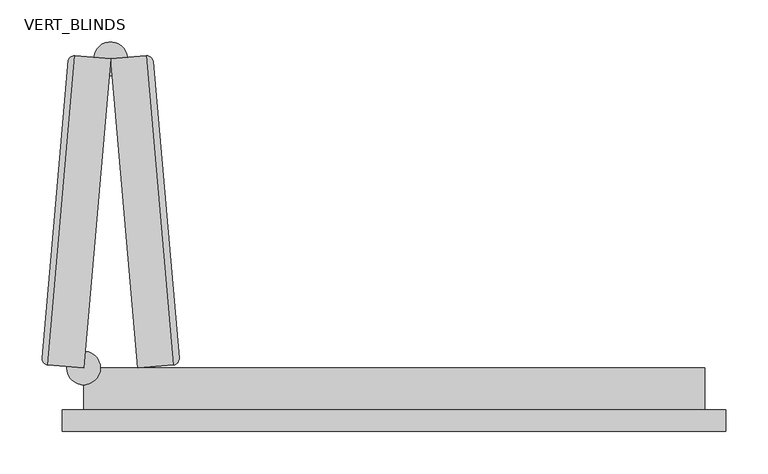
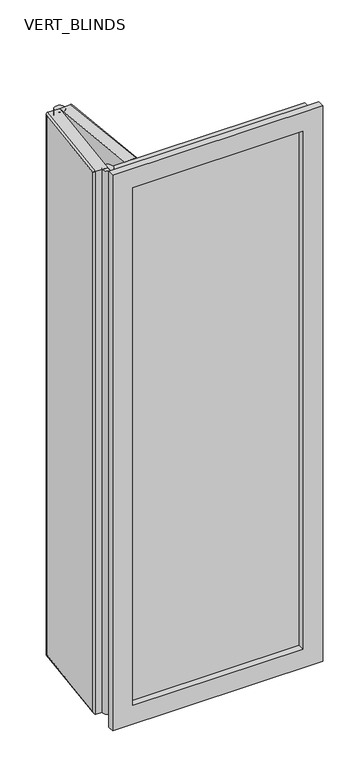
"""IFC4 building model written with IfcOpenShell, lengths in millimetres: plate geometry, CURTAIN PANEL VODA STYLE BIFOLDING : VERT_BLINDS."""

from ifc_helpers import new_model, si_unit, point, frame, frame_2d, origin, place, context, project, spatial, polyline, circle_curve, ellipse_curve, trimmed, segment, composite_curve, outline, extrude, faceted_brep, source, transform, mapped, element, save
from ifc_brep_helpers import plane_surface, cylinder_surface, advanced_brep


def vert_blinds_d016024f(model_context):
    return source(origin(), model_context, "Body", "SolidModel", [
        advanced_brep(
        [(-368.5861554, 50.0, 2175.0), (-336.4617552, 417.1835738, 2175.0), (-378.8000299, 420.8876928, 2175.0), (-410.92443, 53.7041191, 2175.0), (-336.4617552, 417.1835738, 25.0), (-368.5861554, 50.0, 25.0), (-410.92443, 53.7041191, 25.0), (-378.8000299, 420.8876928, 25.0), (-417.7422222, 61.8292474, 32.5), (-417.7422222, 61.8292474, 2167.5), (-386.9251582, 414.0699007, 2167.5), (-386.9251582, 414.0699007, 32.5)],
        [
            (0, 1),
            (1, 2),
            (2, 3),
            (3, 0),
            (4, 5),
            (5, 6),
            (6, 7),
            (7, 4),
            (1, 4),
            (7, 2),
            (8, 9),
            (9, 10),
            (10, 11),
            (11, 8),
            (5, 0),
            (3, 6),
            (8, 6, ellipse_curve(frame((-410.270762, 61.1755793, 32.5), z_axis=(-0.06162841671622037, -0.7044160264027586, 0.7071067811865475), x_axis=(-0.061628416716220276, -0.7044160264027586, -0.7071067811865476)), 10.6066017, 7.5)),
            (3, 9, ellipse_curve(frame((-410.270762, 61.1755793, 2167.5), z_axis=(-0.0616284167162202, -0.7044160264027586, -0.7071067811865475), x_axis=(0.061628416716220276, 0.7044160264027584, -0.7071067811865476)), 10.6066017, 7.5)),
            (11, 7, ellipse_curve(frame((-379.453698, 413.4162326, 32.5), z_axis=(-0.06162841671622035, -0.7044160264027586, -0.7071067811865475), x_axis=(0.0616284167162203, 0.7044160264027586, -0.7071067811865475)), 10.6066017, 7.5)),
            (10, 2, ellipse_curve(frame((-379.453698, 413.4162326, 2167.5), z_axis=(0.06162841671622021, 0.7044160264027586, -0.7071067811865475), x_axis=(0.06162841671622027, 0.7044160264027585, 0.7071067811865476)), 10.6066017, 7.5)),
        ],
        [
            plane_surface(frame((-386.2714901, 421.5413609, 2175.0), z_axis=(0.0, 0.0, 1.0), x_axis=(-0.9961946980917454, 0.0871557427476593, 0.0))),
            plane_surface(frame((-386.2714901, 421.5413609, 25.0), z_axis=(0.0, 0.0, -1.0), x_axis=(0.9961946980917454, -0.0871557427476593, 0.0))),
            plane_surface(frame((-336.4617552, 417.1835738, 2175.0), z_axis=(0.0871557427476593, 0.9961946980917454, 0.0), x_axis=(0.0, 0.0, -1.0))),
            plane_surface(frame((-386.2714901, 421.5413609, 2175.0), z_axis=(-0.9961946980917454, 0.0871557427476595, 0.0), x_axis=(0.0, 0.0, -1.0))),
            plane_surface(frame((-418.3958903, 54.3577871, 2175.0), z_axis=(-0.08715574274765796, -0.9961946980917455, 0.0), x_axis=(0.0, 0.0, -1.0))),
            plane_surface(frame((-368.5861554, 50.0, 2175.0), z_axis=(0.9961946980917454, -0.08715574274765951, 0.0), x_axis=(0.0, 0.0, -1.0))),
            cylinder_surface(frame((-410.270762, 61.1755793, 2175.0), z_axis=(0.0, 0.0, -1.0), x_axis=(0.9961946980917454, -0.08715574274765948, 0.0)), 7.5),
            cylinder_surface(frame((-410.92443, 53.7041191, 32.5), z_axis=(0.08715574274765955, 0.9961946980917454, 0.0), x_axis=(0.9961946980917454, -0.08715574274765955, 0.0)), 7.5),
            cylinder_surface(frame((-379.453698, 413.4162326, 25.0), z_axis=(0.0, 0.0, 1.0), x_axis=(0.9961946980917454, -0.0871557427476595, 0.0)), 7.5),
            cylinder_surface(frame((-378.8000299, 420.8876928, 2167.5), z_axis=(-0.08715574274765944, -0.9961946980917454, 0.0), x_axis=(0.9961946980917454, -0.08715574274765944, 0.0)), 7.5),
        ],
        [
            (0, [[1, 2, 3, 4]]),
            (1, [[5, 6, 7, 8]]),
            (2, [[9, -8, 10, -2]]),
            (3, [[11, 12, 13, 14]]),
            (4, [[15, -4, 16, -6]]),
            (5, [[-1, -15, -5, -9]]),
            (6, [[17, -16, 18, -11]]),
            (7, [[-17, -14, 19, -7]]),
            (8, [[-19, -13, 20, -10]]),
            (9, [[-18, -3, -20, -12]]),
        ],
    ),
        advanced_brep(
        [(-336.4617552, 417.1835738, 2175.0), (-304.3373551, 50.0, 2175.0), (-261.9990804, 53.7041191, 2175.0), (-294.1234806, 420.8876928, 2175.0), (-304.3373551, 50.0, 25.0), (-336.4617552, 417.1835738, 25.0), (-294.1234806, 420.8876928, 25.0), (-261.9990804, 53.7041191, 25.0), (-285.9983523, 414.0699007, 32.5), (-285.9983523, 414.0699007, 2167.5), (-255.1812883, 61.8292474, 2167.5), (-255.1812883, 61.8292474, 32.5)],
        [
            (0, 1),
            (1, 2),
            (2, 3),
            (3, 0),
            (4, 5),
            (5, 6),
            (6, 7),
            (7, 4),
            (1, 4),
            (7, 2),
            (8, 9),
            (9, 10),
            (10, 11),
            (11, 8),
            (5, 0),
            (3, 6),
            (8, 6, ellipse_curve(frame((-293.4698125, 413.4162326, 32.5), z_axis=(-0.0616284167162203, 0.7044160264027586, 0.7071067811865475), x_axis=(-0.061628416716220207, 0.7044160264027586, -0.7071067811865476)), 10.6066017, 7.5)),
            (3, 9, ellipse_curve(frame((-293.4698125, 413.4162326, 2167.5), z_axis=(-0.06162841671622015, 0.7044160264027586, -0.7071067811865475), x_axis=(0.06162841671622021, -0.7044160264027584, -0.7071067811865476)), 10.6066017, 7.5)),
            (11, 7, ellipse_curve(frame((-262.6527485, 61.1755793, 32.5), z_axis=(-0.06162841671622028, 0.7044160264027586, -0.7071067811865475), x_axis=(0.06162841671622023, -0.7044160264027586, -0.7071067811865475)), 10.6066017, 7.5)),
            (10, 2, ellipse_curve(frame((-262.6527485, 61.1755793, 2167.5), z_axis=(0.06162841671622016, -0.7044160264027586, -0.7071067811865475), x_axis=(0.061628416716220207, -0.7044160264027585, 0.7071067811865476)), 10.6066017, 7.5)),
        ],
        [
            plane_surface(frame((-254.5276202, 54.3577871, 2175.0), z_axis=(0.0, 0.0, 1.0), x_axis=(0.9961946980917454, 0.08715574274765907, 0.0))),
            plane_surface(frame((-254.5276202, 54.3577871, 25.0), z_axis=(0.0, 0.0, -1.0), x_axis=(-0.9961946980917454, -0.08715574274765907, 0.0))),
            plane_surface(frame((-304.3373551, 50.0, 2175.0), z_axis=(0.08715574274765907, -0.9961946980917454, 0.0), x_axis=(0.0, 0.0, -1.0))),
            plane_surface(frame((-254.5276202, 54.3577871, 2175.0), z_axis=(0.9961946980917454, 0.08715574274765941, 0.0), x_axis=(0.0, 0.0, -1.0))),
            plane_surface(frame((-286.6520203, 421.5413609, 2175.0), z_axis=(-0.08715574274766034, 0.9961946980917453, 0.0), x_axis=(0.0, 0.0, -1.0))),
            plane_surface(frame((-336.4617552, 417.1835738, 2175.0), z_axis=(-0.9961946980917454, -0.08715574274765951, 0.0), x_axis=(0.0, 0.0, -1.0))),
            cylinder_surface(frame((-293.4698125, 413.4162326, 2175.0), z_axis=(0.0, 0.0, -1.0), x_axis=(-0.9961946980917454, -0.08715574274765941, 0.0)), 7.5),
            cylinder_surface(frame((-294.1234806, 420.8876928, 32.5), z_axis=(0.08715574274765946, -0.9961946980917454, 0.0), x_axis=(-0.9961946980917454, -0.08715574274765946, 0.0)), 7.5),
            cylinder_surface(frame((-262.6527485, 61.1755793, 25.0), z_axis=(0.0, 0.0, 1.0), x_axis=(-0.9961946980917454, -0.0871557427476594, 0.0)), 7.5),
            cylinder_surface(frame((-261.9990804, 53.7041191, 2167.5), z_axis=(-0.08715574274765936, 0.9961946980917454, 0.0), x_axis=(-0.9961946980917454, -0.08715574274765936, 0.0)), 7.5),
        ],
        [
            (0, [[1, 2, 3, 4]]),
            (1, [[5, 6, 7, 8]]),
            (2, [[9, -8, 10, -2]]),
            (3, [[11, 12, 13, 14]]),
            (4, [[15, -4, 16, -6]]),
            (5, [[-1, -15, -5, -9]]),
            (6, [[17, -16, 18, -11]]),
            (7, [[-17, -14, 19, -7]]),
            (8, [[-19, -13, 20, -10]]),
            (9, [[-18, -3, -20, -12]]),
        ],
    ),
        extrude(outline(composite_curve([segment(trimmed(circle_curve(frame_2d((-368.5861554, 50.0)), 20.0), [point((-388.5861554, 50.0))], [point((-348.5861554, 50.0))], False, "CARTESIAN"), True, "CONTINUOUS"), segment(trimmed(circle_curve(frame_2d((-368.5861554, 50.0)), 20.0), [point((-348.5861554, 50.0))], [point((-388.5861554, 50.0))], False, "CARTESIAN"), True, "CONTINUOUS")], self_intersect=False)), frame((0.0, 0.0, 25.0), z_axis=(0.0, 0.0, 1.0), x_axis=(1.0, 0.0, 0.0)), (0.0, 0.0, 1.0), 2150.0),
        extrude(outline(composite_curve([segment(trimmed(circle_curve(frame_2d((-336.4617552, 417.1835738)), 20.0), [point((-338.2048701, 397.2596798))], [point((-334.7186404, 437.1074677))], False, "CARTESIAN"), True, "CONTINUOUS"), segment(trimmed(circle_curve(frame_2d((-336.4617552, 417.1835738)), 20.0), [point((-334.7186404, 437.1074677))], [point((-338.2048701, 397.2596798))], False, "CARTESIAN"), True, "CONTINUOUS")], self_intersect=False)), frame((0.0, 0.0, 25.0), z_axis=(0.0, 0.0, 1.0), x_axis=(1.0, 0.0, 0.0)), (0.0, 0.0, 1.0), 2150.0),
        extrude(outline(polyline([(-318.5861554, 24.0), (318.5861554, 24.0), (318.5861554, 0.0), (-318.5861554, 0.0), (-318.5861554, 24.0)])), frame((0.0, 0.0, 75.0), z_axis=(0.0, 0.0, 1.0), x_axis=(1.0, 0.0, 0.0)), (0.0, 0.0, 1.0), 2050.0),
        faceted_brep([(-318.5861554, 50.0, 2125.0), (-318.5861554, -25.0, 2125.0), (-318.5861554, -25.0, 75.0), (-318.5861554, 50.0, 75.0), (-393.5861554, -25.0, 2200.0), (-393.5861554, 0.0, 2200.0), (-393.5861554, 0.0, 0.0), (-393.5861554, -25.0, 0.0), (-368.5861554, 0.0, 2175.0), (-368.5861554, 50.0, 2175.0), (-368.5861554, 50.0, 25.0), (-368.5861554, 0.0, 25.0), (318.5861554, -25.0, 75.0), (318.5861554, 50.0, 75.0), (393.5861554, 0.0, 0.0), (393.5861554, -25.0, 0.0), (368.5861554, 50.0, 25.0), (368.5861554, 0.0, 25.0), (318.5861554, -25.0, 2125.0), (318.5861554, 50.0, 2125.0), (393.5861554, 0.0, 2200.0), (393.5861554, -25.0, 2200.0), (368.5861554, 50.0, 2175.0), (368.5861554, 0.0, 2175.0)], [[[0, 1, 2, 3]], [[4, 5, 6, 7]], [[8, 9, 10, 11]], [[3, 2, 12, 13]], [[7, 6, 14, 15]], [[11, 10, 16, 17]], [[13, 12, 18, 19]], [[15, 14, 20, 21]], [[17, 16, 22, 23]], [[9, 22, 16, 10], [3, 13, 19, 0]], [[19, 18, 1, 0]], [[7, 15, 21, 4], [1, 18, 12, 2]], [[21, 20, 5, 4]], [[5, 20, 14, 6], [11, 17, 23, 8]], [[23, 22, 9, 8]]]),
    ])


if __name__ == "__main__":
    model = new_model("IFC4")
    model_context = context("Model", 3, world=origin())
    ifc_project = project(units=[si_unit("LENGTHUNIT", "METRE", prefix="MILLI")], contexts=[model_context])
    site = spatial("IfcSite", under=ifc_project)
    building = spatial("IfcBuilding", under=site)
    placement = place(None, origin())
    vert_blinds_shape = vert_blinds_d016024f(model_context)
    element("IfcPlate", 1, ObjectType="CURTAIN PANEL VODA STYLE BIFOLDING : VERT_BLINDS", at=placement, inside=building, context=model_context, shape_type="MappedRepresentation", body=[
        mapped(vert_blinds_shape, transform((0.0, 0.0, 0.0), x_axis=(1.0, 0.0, 0.0), y_axis=(0.0, 1.0, 0.0), z_axis=(0.0, 0.0, 1.0))),
    ])
    save(model, "model.ifc")
